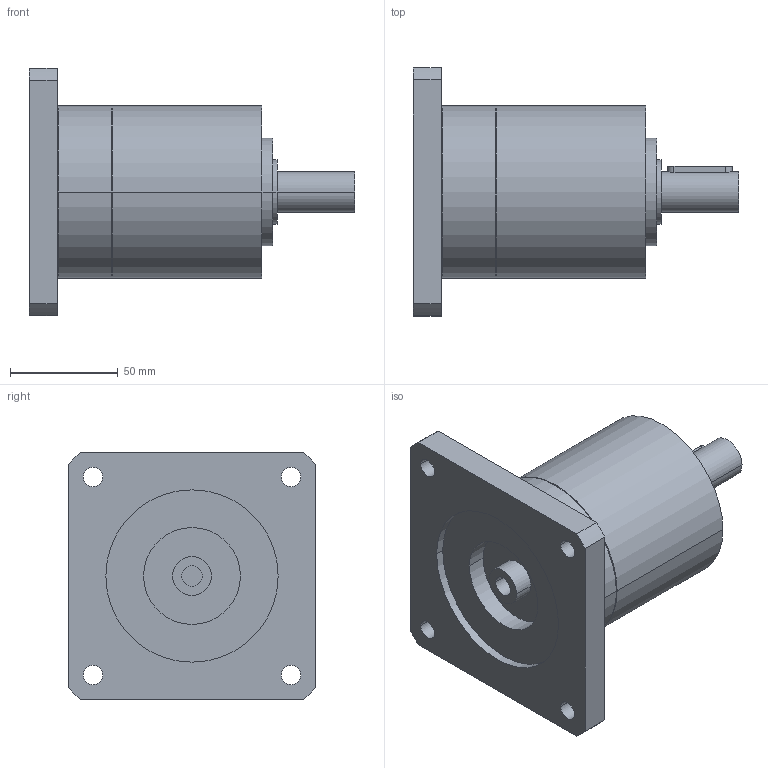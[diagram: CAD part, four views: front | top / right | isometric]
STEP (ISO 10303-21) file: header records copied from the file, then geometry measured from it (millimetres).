
FILE_DESCRIPTION(('CoCreate Modeling STEP Export'),'2;1');
FILE_NAME('GPR100_ig-3-4-5-6_19_B14_9.52_P30.stp','2014-08-26T10:09:58',(''),(''),'CoCreate Modeling STEP processor for AP214 (Solid Model)','CoCreate Modeling 16.00C 25-Feb-2009 (C) Parametric Technology GmbH','');
FILE_SCHEMA(('AUTOMOTIVE_DESIGN { 1 0 10303 214 1 1 1 1 }'));
Length unit declared in the file: millimetre
Products named in the file (2): GPR100_ig-3-4-5-6_19_B14_9.52_P30
Assembly tree (1 placements, depth 2):
  GPR100_ig-3-4-5-6_19_B14_9.52_P30
    GPR100_ig-3-4-5-6_19_B14_9.52_P30
Bounding box: 151 x 115 x 115 mm (x, y, z)
Volume: 630956.9 mm3; surface area: 65741.3 mm2
Topology: 1 solids, 1 shells, 70 faces, 180 edges, 124 vertices
Faces by surface type: cylinder 42, plane 22, cone 6
Entity records: 1899 total; most frequent: ORIENTED_EDGE 356, CARTESIAN_POINT 352, DIRECTION 262, EDGE_CURVE 178, VERTEX_POINT 124, AXIS2_PLACEMENT_3D 98, EDGE_LOOP 92, FACE_OUTER_BOUND 70
